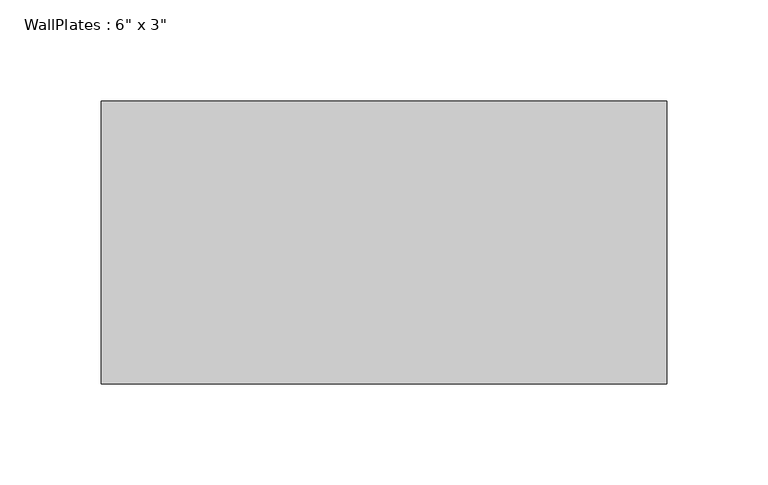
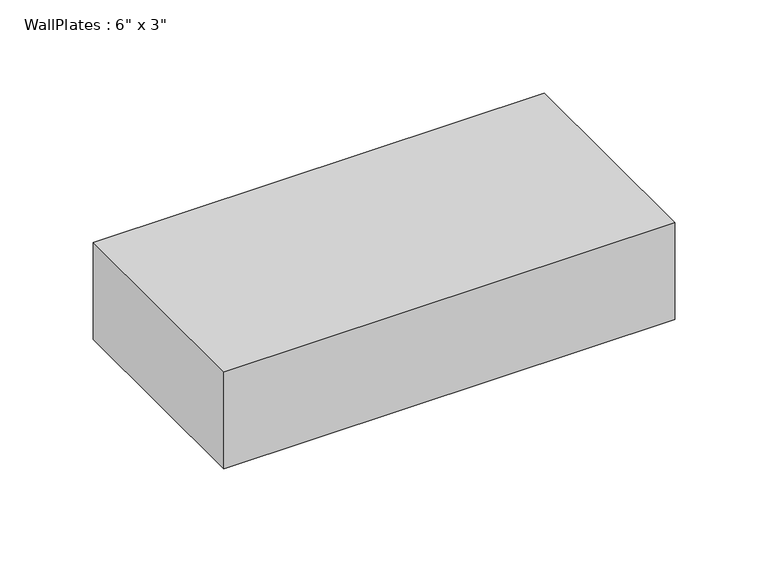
"""IFC4 building model written with IfcOpenShell, lengths in millimetres: beam geometry."""

from ifc_helpers import new_model, si_unit, frame, origin, place, context, project, spatial, polyline, outline, extrude, source, transform, mapped, element, save


def beam_3f78b364(model_context):
    return source(origin(), model_context, "Body", "SweptSolid", [
        extrude(outline(polyline([(-139.695, -69.85), (-139.695, 69.85), (139.695, 69.85), (139.695, -69.85), (-139.695, -69.85)])), frame((0.0, 0.0, -31.75), z_axis=(0.0, 0.0, 1.0), x_axis=(1.0, 0.0, 0.0)), (0.0, 0.0, 1.0), 63.5),
    ])


if __name__ == "__main__":
    model = new_model("IFC4")
    model_context = context("Model", 3, world=origin())
    ifc_project = project(units=[si_unit("LENGTHUNIT", "METRE", prefix="MILLI")], contexts=[model_context])
    site = spatial("IfcSite", under=ifc_project)
    building = spatial("IfcBuilding", under=site)
    placement = place(None, origin())
    beam_shape = beam_3f78b364(model_context)
    element("IfcBeam", 1, ObjectType="WallPlates : 6\" x 3\"", at=placement, inside=building, context=model_context, shape_type="MappedRepresentation", body=[
        mapped(beam_shape, transform((0.0, 0.0, 0.0), x_axis=(1.0, 0.0, 0.0), y_axis=(0.0, 1.0, 0.0), z_axis=(0.0, 0.0, 1.0))),
    ])
    save(model, "model.ifc")
